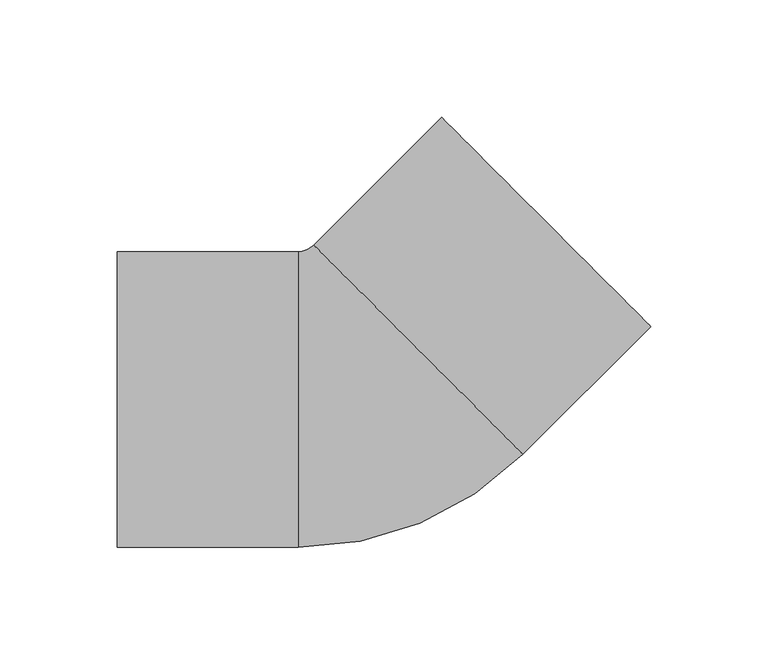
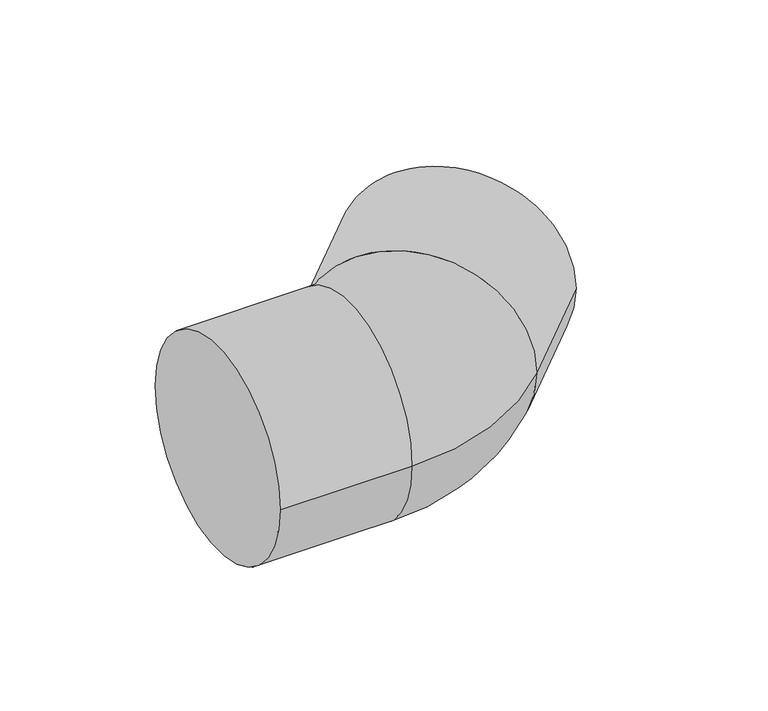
"""IFC4 building model written with IfcOpenShell, lengths in millimetres: pipe fitting geometry, 01051067 : Coudes à 45º."""

from ifc_helpers import new_model, si_unit, point, frame, origin, place, context, project, spatial, circle_curve, ellipse_curve, trimmed, source, transform, mapped, element, save
from ifc_brep_helpers import plane_surface, cylinder_surface, revolved_surface, advanced_brep


def pipe_fitting_a09daee1(model_context):
    return source(origin(), model_context, "Body", "AdvancedBrep", [
        advanced_brep(
        [(-107.0, -63.0, 0.0), (-107.0, 63.0, 0.0), (-30.0, -63.0, 0.0), (-30.0, 63.0, 0.0), (-23.3345238, 65.7609307, 0.0), (65.7609307, -23.3345238, 0.0), (120.2081528, 31.1126984, 0.0), (31.1126984, 120.2081528, 0.0)],
        [
            (0, 1, circle_curve(frame((-107.0, 0.0, 0.0), z_axis=(-1.0, 0.0, 0.0), x_axis=(0.0, 1.0, 0.0)), 63.0)),
            (1, 0, circle_curve(frame((-107.0, 0.0, 0.0), z_axis=(-1.0, 0.0, 0.0), x_axis=(0.0, 1.0, 0.0)), 63.0)),
            (0, 2),
            (2, 3, circle_curve(frame((-30.0, 0.0, 0.0), z_axis=(-1.0, 0.0, 0.0), x_axis=(0.0, 1.0, 0.0)), 63.0)),
            (3, 1),
            (3, 2, circle_curve(frame((-30.0, 0.0, 0.0), z_axis=(-1.0, 0.0, 0.0), x_axis=(0.0, 1.0, 0.0)), 63.0)),
            (4, 3, circle_curve(frame((-30.0, 72.4264069, 0.0), z_axis=(0.0, 0.0, -1.0), x_axis=(0.0, -1.0, 0.0)), 9.4264069)),
            (2, 5, circle_curve(frame((-30.0, 72.4264069, 0.0), z_axis=(0.0, 0.0, 1.0), x_axis=(0.0, -1.0, 0.0)), 135.4264069)),
            (5, 4, circle_curve(frame((21.2132034, 21.2132034, 0.0), z_axis=(-0.7071067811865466, -0.7071067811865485, 0.0), x_axis=(-0.7071067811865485, 0.7071067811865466, 0.0)), 63.0)),
            (4, 5, circle_curve(frame((21.2132034, 21.2132034, 0.0), z_axis=(-0.7071067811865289, -0.7071067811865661, 0.0), x_axis=(-0.7071067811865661, 0.7071067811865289, 0.0)), 63.0)),
            (6, 7, circle_curve(frame((75.6604256, 75.6604256, 0.0), z_axis=(0.7071067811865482, 0.7071067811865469, 0.0), x_axis=(-0.7071067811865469, 0.7071067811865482, 0.0)), 63.0)),
            (7, 6, circle_curve(frame((75.6604256, 75.6604256, 0.0), z_axis=(0.7071067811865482, 0.7071067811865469, 0.0), x_axis=(-0.7071067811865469, 0.7071067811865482, 0.0)), 63.0)),
            (5, 6),
            (7, 4),
        ],
        [
            plane_surface(frame((-107.0, 0.0, 0.0), z_axis=(-1.0, 0.0, 0.0), x_axis=(0.0, 0.0, 1.0))),
            cylinder_surface(frame((-107.0, 0.0, 0.0), z_axis=(-1.0, 0.0, 0.0), x_axis=(0.0, 1.0, 0.0)), 63.0),
            revolved_surface(trimmed(ellipse_curve(frame((-30.0, 0.0, 0.0), z_axis=(-1.0, 0.0, 0.0), x_axis=(0.0, 1.0, 0.0)), 63.0, 63.0), [point((-30.0, -63.0, 0.0))], [point((-30.0, 63.0, 0.0))], True, "CARTESIAN"), (-30.0, 72.4264069, 0.0), (0.0, 0.0, 1.0)),
            revolved_surface(trimmed(ellipse_curve(frame((-30.0, 0.0, 0.0), z_axis=(-1.0, 0.0, 0.0), x_axis=(0.0, 1.0, 0.0)), 63.0, 63.0), [point((-30.0, 63.0, 0.0))], [point((-30.0, -63.0, 0.0))], True, "CARTESIAN"), (-30.0, 72.4264069, 0.0), (0.0, 0.0, 1.0)),
            plane_surface(frame((75.6604256, 75.6604256, 0.0), z_axis=(0.7071067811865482, 0.7071067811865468, 0.0), x_axis=(0.0, 0.0, 1.0))),
            cylinder_surface(frame((21.2132034, 21.2132034, 0.0), z_axis=(-0.7071067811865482, -0.7071067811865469, 0.0), x_axis=(-0.7071067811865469, 0.7071067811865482, 0.0)), 63.0),
        ],
        [
            (0, [[1, 2]]),
            (1, [[-1, 3, 4, 5]]),
            (1, [[-2, -5, 6, -3]]),
            (2, [[7, -4, 8, 9]]),
            (3, [[-8, -6, -7, 10]]),
            (4, [[11, 12]]),
            (5, [[-9, 13, -12, 14]]),
            (5, [[-10, -14, -11, -13]]),
        ],
    ),
    ])


if __name__ == "__main__":
    model = new_model("IFC4")
    model_context = context("Model", 3, world=origin())
    ifc_project = project(units=[si_unit("LENGTHUNIT", "METRE", prefix="MILLI")], contexts=[model_context])
    site = spatial("IfcSite", under=ifc_project)
    building = spatial("IfcBuilding", under=site)
    placement = place(None, origin())
    pipe_fitting_shape = pipe_fitting_a09daee1(model_context)
    element("IfcPipeFitting", 1, ObjectType="01051067 : Coudes à 45º", at=placement, inside=building, context=model_context, shape_type="MappedRepresentation", body=[
        mapped(pipe_fitting_shape, transform((0.0, 0.0, 0.0), x_axis=(1.0, 0.0, 0.0), y_axis=(0.0, 1.0, 0.0), z_axis=(0.0, 0.0, 1.0))),
    ])
    save(model, "model.ifc")
